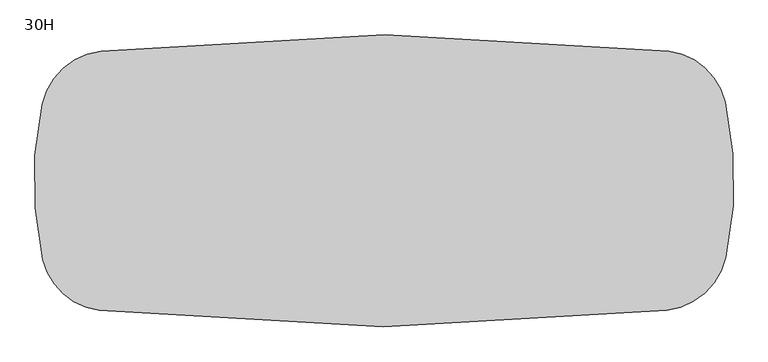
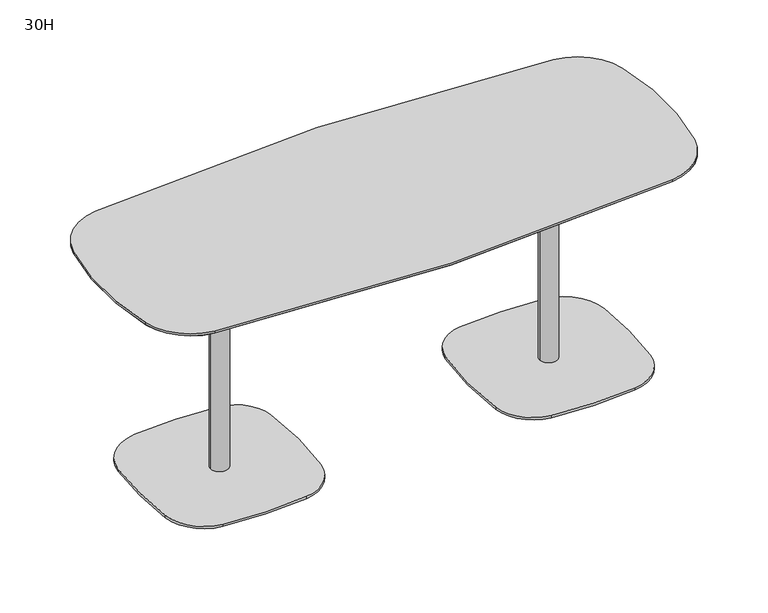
"""IFC4 building model written with IfcOpenShell, lengths in millimetres: furniture geometry, Steelcase Coalesse - Enea Lottus - Table - Rectangular : 30H."""

from ifc_helpers import new_model, si_unit, point, frame, frame_2d, origin, origin_with_axes, place, context, project, spatial, polyline, circle_curve, trimmed, segment, composite_curve, outline, extrude, source, transform, mapped, element, save
from ifc_brep_helpers import plane_surface, cylinder_surface, revolved_surface, advanced_brep


def furniture_30h_0e2ea376(model_context):
    return source(origin(), model_context, "Body", "SolidModel", [
        advanced_brep(
        [(533.6899315, 0.0079283, 725.7956207), (533.6899315, 29.1924887, 725.7956207), (533.6899315, -29.1766322, 725.7956207), (533.6899315, 176.2649386, 745.8538925), (533.6899315, -176.2490821, 745.8538925), (533.6899315, 176.2649386, 749.2282142), (533.6899315, -176.2490821, 749.2282142), (533.6899315, 0.0079283, 749.2282142)],
        [
            (0, 1),
            (1, 2, circle_curve(frame((533.6899315, 0.0079283, 725.7956207), z_axis=(0.0, 0.0, -1.0), x_axis=(0.0, 1.0, 0.0)), 29.1845605)),
            (2, 0),
            (2, 1, circle_curve(frame((533.6899315, 0.0079283, 725.7956207), z_axis=(0.0, 0.0, -1.0), x_axis=(0.0, 1.0, 0.0)), 29.1845605)),
            (1, 3),
            (3, 4, circle_curve(frame((533.6899315, 0.0079283, 745.8538925), z_axis=(0.0, 0.0, -1.0), x_axis=(0.0, 1.0, 0.0)), 176.2570104)),
            (4, 2),
            (4, 3, circle_curve(frame((533.6899315, 0.0079283, 745.8538925), z_axis=(0.0, 0.0, -1.0), x_axis=(0.0, 1.0, 0.0)), 176.2570104)),
            (3, 5),
            (5, 6, circle_curve(frame((533.6899315, 0.0079283, 749.2282142), z_axis=(0.0, 0.0, -1.0), x_axis=(0.0, 1.0, 0.0)), 176.2570104)),
            (6, 4),
            (6, 5, circle_curve(frame((533.6899315, 0.0079283, 749.2282142), z_axis=(0.0, 0.0, -1.0), x_axis=(0.0, 1.0, 0.0)), 176.2570104)),
            (5, 7),
            (7, 6),
        ],
        [
            plane_surface(frame((533.6899315, 0.0079283, 725.7956207), z_axis=(0.0, 0.0, -1.0), x_axis=(0.0, 1.0, 0.0))),
            revolved_surface(polyline([(533.6899315, 176.2649386, 745.8538925), (533.6899315, 29.1924887, 725.7956207)]), (533.6899315, 0.0079283, 745.2176504), (0.0, 0.0, -1.0)),
            cylinder_surface(frame((533.6899315, 0.0079283, 745.2176504), z_axis=(0.0, 0.0, -1.0), x_axis=(0.0, 1.0, 0.0)), 176.2570104),
            plane_surface(frame((533.6899315, 0.0079283, 749.2282142), z_axis=(0.0, 0.0, 1.0), x_axis=(0.0, 1.0, 0.0))),
        ],
        [
            (0, [[1, 2, 3]]),
            (0, [[-3, 4, -1]]),
            (1, [[-2, 5, 6, 7]]),
            (1, [[-4, -7, 8, -5]]),
            (2, [[-6, 9, 10, 11]]),
            (2, [[-8, -11, 12, -9]]),
            (3, [[-10, 13, 14]]),
            (3, [[-12, -14, -13]]),
        ],
    ),
        advanced_brep(
        [(-533.2930565, -29.5735072, 725.7956207), (-533.2930565, 28.7956137, 725.7956207), (-533.2930565, -0.3889467, 725.7956207), (-533.2930565, -176.6459571, 745.8538925), (-533.2930565, 175.8680636, 745.8538925), (-533.2930565, -176.6459571, 749.2282142), (-533.2930565, 175.8680636, 749.2282142), (-533.2930565, -0.3889467, 749.2282142)],
        [
            (0, 1, circle_curve(frame((-533.2930565, -0.3889467, 725.7956207), z_axis=(0.0, 0.0, -1.0), x_axis=(0.0, 1.0, 0.0)), 29.1845605)),
            (1, 2),
            (2, 0),
            (1, 0, circle_curve(frame((-533.2930565, -0.3889467, 725.7956207), z_axis=(0.0, 0.0, -1.0), x_axis=(0.0, 1.0, 0.0)), 29.1845605)),
            (3, 4, circle_curve(frame((-533.2930565, -0.3889467, 745.8538925), z_axis=(0.0, 0.0, -1.0), x_axis=(0.0, 1.0, 0.0)), 176.2570104)),
            (4, 1),
            (0, 3),
            (4, 3, circle_curve(frame((-533.2930565, -0.3889467, 745.8538925), z_axis=(0.0, 0.0, -1.0), x_axis=(0.0, 1.0, 0.0)), 176.2570104)),
            (5, 6, circle_curve(frame((-533.2930565, -0.3889467, 749.2282142), z_axis=(0.0, 0.0, -1.0), x_axis=(0.0, 1.0, 0.0)), 176.2570104)),
            (6, 4),
            (3, 5),
            (6, 5, circle_curve(frame((-533.2930565, -0.3889467, 749.2282142), z_axis=(0.0, 0.0, -1.0), x_axis=(0.0, 1.0, 0.0)), 176.2570104)),
            (7, 6),
            (5, 7),
        ],
        [
            plane_surface(frame((-533.2930565, -0.3889467, 725.7956207), z_axis=(0.0, 0.0, -1.0), x_axis=(0.0, 1.0, 0.0))),
            revolved_surface(polyline([(-533.2930565, 28.7956137, 725.7956207), (-533.2930565, 175.8680636, 745.8538925)]), (-533.2930565, -0.3889467, 745.2176504), (0.0, 0.0, 1.0)),
            cylinder_surface(frame((-533.2930565, -0.3889467, 745.2176504), z_axis=(0.0, 0.0, 1.0), x_axis=(0.0, 1.0, 0.0)), 176.2570104),
            plane_surface(frame((-533.2930565, -0.3889467, 749.2282142), z_axis=(0.0, 0.0, 1.0), x_axis=(0.0, 1.0, 0.0))),
        ],
        [
            (0, [[1, 2, 3]]),
            (0, [[4, -3, -2]]),
            (1, [[5, 6, -1, 7]]),
            (1, [[8, -7, -4, -6]]),
            (2, [[9, 10, -5, 11]]),
            (2, [[12, -11, -8, -10]]),
            (3, [[13, -9, 14]]),
            (3, [[-14, -12, -13]]),
        ],
    ),
        extrude(outline(composite_curve([segment(trimmed(circle_curve(frame_2d((714.0146629, 180.1091408)), 14.530327), [point((699.4843358, 180.1091408))], [point((728.5449899, 180.1091408))], False, "CARTESIAN"), True, "CONTINUOUS"), segment(trimmed(circle_curve(frame_2d((714.0146629, 180.1091408)), 14.530327), [point((728.5449899, 180.1091408))], [point((699.4843358, 180.1091408))], False, "CARTESIAN"), True, "CONTINUOUS")], self_intersect=False)), origin_with_axes(), (0.0, 0.0, 1.0), 12.0681503),
        extrude(outline(composite_curve([segment(trimmed(circle_curve(frame_2d((353.3678597, 180.1091408)), 14.530327), [point((338.8375326, 180.1091408))], [point((367.8981867, 180.1091408))], False, "CARTESIAN"), True, "CONTINUOUS"), segment(trimmed(circle_curve(frame_2d((353.3678597, 180.1091408)), 14.530327), [point((367.8981867, 180.1091408))], [point((338.8375326, 180.1091408))], False, "CARTESIAN"), True, "CONTINUOUS")], self_intersect=False)), origin_with_axes(), (0.0, 0.0, 1.0), 12.0681503),
        extrude(outline(composite_curve([segment(trimmed(circle_curve(frame_2d((714.0146629, -180.1091408)), 14.530327), [point((699.4843358, -180.1091408))], [point((728.5449899, -180.1091408))], False, "CARTESIAN"), True, "CONTINUOUS"), segment(trimmed(circle_curve(frame_2d((714.0146629, -180.1091408)), 14.530327), [point((728.5449899, -180.1091408))], [point((699.4843358, -180.1091408))], False, "CARTESIAN"), True, "CONTINUOUS")], self_intersect=False)), origin_with_axes(), (0.0, 0.0, 1.0), 12.0681503),
        extrude(outline(composite_curve([segment(trimmed(circle_curve(frame_2d((353.3678597, -180.1091408)), 14.530327), [point((338.8375326, -180.1091408))], [point((367.8981867, -180.1091408))], False, "CARTESIAN"), True, "CONTINUOUS"), segment(trimmed(circle_curve(frame_2d((353.3678597, -180.1091408)), 14.530327), [point((367.8981867, -180.1091408))], [point((338.8375326, -180.1091408))], False, "CARTESIAN"), True, "CONTINUOUS")], self_intersect=False)), origin_with_axes(), (0.0, 0.0, 1.0), 12.0681503),
        extrude(outline(composite_curve([segment(trimmed(circle_curve(frame_2d((653.6418748, -119.1450965)), 133.222342), [point((786.0221834, -134.099905))], [point((668.3067607, -251.5578358))], False, "CARTESIAN"), True, "CONTINUOUS"), segment(trimmed(circle_curve(frame_2d((533.6074129, 964.6745761)), 1223.6687436), [point((668.3067607, -251.5578358))], [point((397.528708, -251.4042783))], False, "CARTESIAN"), True, "CONTINUOUS"), segment(trimmed(circle_curve(frame_2d((411.982862, -122.2335093)), 129.97696), [point((397.528708, -251.4042783))], [point((282.9704132, -138.0385142))], False, "CARTESIAN"), True, "CONTINUOUS"), segment(trimmed(circle_curve(frame_2d((1412.2891802, 0.3116127)), 1137.7616777), [point((282.9704132, -138.0385142))], [point((283.9914799, 146.7559187))], False, "CARTESIAN"), True, "CONTINUOUS"), segment(trimmed(circle_curve(frame_2d((404.4486749, 131.1215074)), 121.4675703), [point((283.9914799, 146.7559187))], [point((391.3529548, 251.8810733))], False, "CARTESIAN"), True, "CONTINUOUS"), segment(trimmed(circle_curve(frame_2d((531.1125259, -1036.8838838)), 1296.3208909), [point((391.3529548, 251.8810733))], [point((663.5285015, 252.6562907))], False, "CARTESIAN"), True, "CONTINUOUS"), segment(trimmed(circle_curve(frame_2d((649.3276784, 114.3608031)), 139.022679), [point((663.5285015, 252.6562907))], [point((787.6552382, 128.2457396))], False, "CARTESIAN"), True, "CONTINUOUS"), segment(trimmed(circle_curve(frame_2d((-442.8831067, 4.7277163)), 1236.7220061), [point((787.6552382, 128.2457396))], [point((786.0221834, -134.099905))], False, "CARTESIAN"), True, "CONTINUOUS")], self_intersect=False)), frame((0.0, 0.0, 12.0681503), z_axis=(0.0, 0.0, 1.0), x_axis=(1.0, 0.0, 0.0)), (0.0, 0.0, 1.0), 7.874),
        extrude(outline(composite_curve([segment(trimmed(circle_curve(frame_2d((533.6909706, 0.2349542)), 29.1845605), [point((504.5064102, 0.2349542))], [point((562.8755311, 0.2349542))], False, "CARTESIAN"), True, "CONTINUOUS"), segment(trimmed(circle_curve(frame_2d((533.6909706, 0.2349542)), 29.1845605), [point((562.8755311, 0.2349542))], [point((504.5064102, 0.2349542))], False, "CARTESIAN"), True, "CONTINUOUS")], self_intersect=False)), frame((0.0, 0.0, 19.9421503), z_axis=(0.0, 0.0, 1.0), x_axis=(1.0, 0.0, 0.0)), (0.0, 0.0, 1.0), 705.8534704),
        advanced_brep(
        [(739.347506, -338.2744697, 754.447009), (892.4732941, -200.1677811, 754.447009), (891.2541739, 205.5853505, 754.447009), (743.9458752, 337.7402913, 754.447009), (-739.2545007, 338.4789717, 754.447009), (-892.4186272, 200.414007, 754.447009), (-891.1980236, -205.8312645, 754.447009), (-743.8530353, -337.9460632, 754.447009), (737.8865789, -325.6587774, 749.2282142), (-742.3865217, -325.3310191, 749.2282142), (-878.8170663, -203.0025018, 749.2282142), (-880.020895, 197.6596943, 749.2282142), (-737.7970634, 325.8628758, 749.2282142), (742.4758721, 325.1256533, 749.2282142), (878.872445, 202.7599674, 749.2282142), (880.0748107, -197.4168523, 749.2282142)],
        [
            (0, 1, circle_curve(frame((718.8945265, -161.6547777, 754.447009), z_axis=(0.0, 0.0, 1.0), x_axis=(0.11503363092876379, -0.9933615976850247, 0.0)), 177.8)),
            (1, 2, circle_curve(frame((-9.6863319, 0.0, 754.447009), z_axis=(0.0, 0.0, 1.0), x_axis=(0.9762585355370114, -0.2166085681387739, 0.0)), 924.0990917)),
            (2, 3, circle_curve(frame((724.1008339, 167.4426787, 754.447009), z_axis=(0.0, 0.0, 1.0), x_axis=(0.9749392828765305, 0.2224711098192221, 0.0)), 171.45)),
            (3, 4, circle_curve(frame((-0.8375458, -6053.5206925, 754.447009), z_axis=(0.0, 0.0, 1.0), x_axis=(0.11574827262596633, 0.9932785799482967, 0.0)), 6434.5100285)),
            (4, 5, circle_curve(frame((-718.8503777, 161.8536288, 754.447009), z_axis=(0.0, 0.0, 1.0), x_axis=(-0.11475884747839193, 0.9933933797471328, 0.0)), 177.8)),
            (5, 6, circle_curve(frame((9.6863319, 0.0, 754.447009), z_axis=(0.0, 0.0, 1.0), x_axis=(-0.9761993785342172, 0.2168750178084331, 0.0)), 924.0990917)),
            (6, 7, circle_curve(frame((-724.0551012, -167.6429678, 754.447009), z_axis=(0.0, 0.0, 1.0), x_axis=(-0.9748785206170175, -0.22273722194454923, 0.0)), 171.45)),
            (7, 0, circle_curve(frame((-0.8375458, 6053.5206925, 754.447009), z_axis=(0.0, 0.0, 1.0), x_axis=(-0.11547351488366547, -0.9933105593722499, 0.0)), 6434.5100285)),
            (8, 9, circle_curve(frame((-0.8375458, 6053.5206925, 749.2282142), z_axis=(0.0, 0.0, -1.0), x_axis=(-0.11547351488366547, -0.9933105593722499, 0.0)), 6421.8100285)),
            (9, 10, circle_curve(frame((-724.0551012, -167.6429678, 749.2282142), z_axis=(0.0, 0.0, -1.0), x_axis=(-0.9748785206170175, -0.22273722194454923, 0.0)), 158.75)),
            (10, 11, circle_curve(frame((9.6863319, 0.0, 749.2282142), z_axis=(0.0, 0.0, -1.0), x_axis=(-0.9761993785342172, 0.2168750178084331, 0.0)), 911.3990917)),
            (11, 12, circle_curve(frame((-718.8503777, 161.8536288, 749.2282142), z_axis=(0.0, 0.0, -1.0), x_axis=(-0.11475884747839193, 0.9933933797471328, 0.0)), 165.1)),
            (12, 13, circle_curve(frame((-0.8375458, -6053.5206925, 749.2282142), z_axis=(0.0, 0.0, -1.0), x_axis=(0.11574827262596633, 0.9932785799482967, 0.0)), 6421.8100285)),
            (13, 14, circle_curve(frame((724.1008339, 167.4426787, 749.2282142), z_axis=(0.0, 0.0, -1.0), x_axis=(0.9749392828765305, 0.2224711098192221, 0.0)), 158.75)),
            (14, 15, circle_curve(frame((-9.6863319, 0.0, 749.2282142), z_axis=(0.0, 0.0, -1.0), x_axis=(0.9762585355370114, -0.2166085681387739, 0.0)), 911.3990917)),
            (15, 8, circle_curve(frame((718.8945265, -161.6547777, 749.2282142), z_axis=(0.0, 0.0, -1.0), x_axis=(0.11503363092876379, -0.9933615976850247, 0.0)), 165.1)),
            (15, 1),
            (0, 8),
            (14, 2),
            (13, 3),
            (12, 4),
            (11, 5),
            (10, 6),
            (9, 7),
        ],
        [
            plane_surface(frame((0.0370828, -0.0001197, 754.447009), z_axis=(0.0, 0.0, 1.0), x_axis=(-0.9932785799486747, 0.11574827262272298, 0.0))),
            plane_surface(frame((0.03602, -0.00012, 749.2282142), z_axis=(0.0, 0.0, -1.0), x_axis=(-0.9932785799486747, 0.11574827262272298, 0.0))),
            revolved_surface(polyline([(880.0748107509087, -197.41685229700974, 749.2282142), (892.4732941, -200.1677811, 754.447009)]), (718.8945265, -161.6547777, 681.3838815), (0.0, 0.0, 1.0)),
            revolved_surface(polyline([(878.8724450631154, 202.75996741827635, 749.2282142), (891.2541739, 205.5853505, 754.447009)]), (-9.6863319, 0.0, 374.7081463), (0.0, 0.0, 1.0)),
            revolved_surface(polyline([(742.4758721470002, 325.12565338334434, 749.2282142), (743.9458752, 337.7402913, 754.447009)]), (724.1008339, 167.4426787, 683.9932789), (0.0, 0.0, 1.0)),
            revolved_surface(polyline([(-737.797063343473, 325.8628758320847, 749.2282142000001), (-739.2545007, 338.47897170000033, 754.4470090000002)]), (-0.8375458, -6053.5206925, -1889.6780007), (0.0, 0.0, 1.0)),
            revolved_surface(polyline([(-880.0208951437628, 197.65969428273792, 749.2282142), (-892.4186272, 200.414007, 754.447009)]), (-718.8503777, 161.8536288, 681.3838815), (0.0, 0.0, 1.0)),
            revolved_surface(polyline([(-878.8170664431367, -203.00250179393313, 749.2282142), (-891.1980236, -205.8312645, 754.447009)]), (9.6863319, 0.0, 374.7081463), (0.0, 0.0, 1.0)),
            revolved_surface(polyline([(-742.3865216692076, -325.3310191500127, 749.2282142), (-743.8530353, -337.9460632, 754.447009)]), (-724.0551012, -167.6429678, 683.9932789), (0.0, 0.0, 1.0)),
            revolved_surface(polyline([(737.8865788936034, -325.6587774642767, 749.2282142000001), (739.347506, -338.2744696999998, 754.4470090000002)]), (-0.8375458, 6053.5206925, -1889.6780007), (0.0, 0.0, 1.0)),
        ],
        [
            (0, [[1, 2, 3, 4, 5, 6, 7, 8]]),
            (1, [[9, 10, 11, 12, 13, 14, 15, 16]]),
            (2, [[-16, 17, -1, 18]]),
            (3, [[-15, 19, -2, -17]]),
            (4, [[-14, 20, -3, -19]]),
            (5, [[-13, 21, -4, -20]]),
            (6, [[-12, 22, -5, -21]]),
            (7, [[-11, 23, -6, -22]]),
            (8, [[-10, 24, -7, -23]]),
            (9, [[-9, -18, -8, -24]]),
        ],
    ),
        extrude(outline(composite_curve([segment(trimmed(circle_curve(frame_2d((9.6863319, 0.0)), 924.0990917), [point((-891.1980236, -205.8312645))], [point((-892.4186272, 200.414007))], False, "CARTESIAN"), True, "CONTINUOUS"), segment(trimmed(circle_curve(frame_2d((-718.8503777, 161.8536288)), 177.8), [point((-892.4186272, 200.414007))], [point((-739.2545007, 338.4789717))], False, "CARTESIAN"), True, "CONTINUOUS"), segment(trimmed(circle_curve(frame_2d((-0.8375458, -6053.5206925)), 6434.5100285), [point((-739.2545007, 338.4789717))], [point((743.9458752, 337.7402913))], False, "CARTESIAN"), True, "CONTINUOUS"), segment(trimmed(circle_curve(frame_2d((724.1008339, 167.4426787)), 171.45), [point((743.9458752, 337.7402913))], [point((891.2541739, 205.5853505))], False, "CARTESIAN"), True, "CONTINUOUS"), segment(trimmed(circle_curve(frame_2d((-9.6863319, 0.0)), 924.0990917), [point((891.2541739, 205.5853505))], [point((892.4732941, -200.1677811))], False, "CARTESIAN"), True, "CONTINUOUS"), segment(trimmed(circle_curve(frame_2d((718.8945265, -161.6547777)), 177.8), [point((892.4732941, -200.1677811))], [point((739.347506, -338.2744697))], False, "CARTESIAN"), True, "CONTINUOUS"), segment(trimmed(circle_curve(frame_2d((-0.8375458, 6053.5206925)), 6434.5100285), [point((739.347506, -338.2744697))], [point((-743.8530353, -337.9460632))], False, "CARTESIAN"), True, "CONTINUOUS"), segment(trimmed(circle_curve(frame_2d((-724.0551012, -167.6429678)), 171.45), [point((-743.8530353, -337.9460632))], [point((-891.1980236, -205.8312645))], False, "CARTESIAN"), True, "CONTINUOUS")], self_intersect=False)), frame((0.0, 0.0, 754.447009), z_axis=(0.0, 0.0, 1.0), x_axis=(1.0, 0.0, 0.0)), (0.0, 0.0, 1.0), 7.552991),
        extrude(outline(composite_curve([segment(trimmed(circle_curve(frame_2d((-714.0146629, 180.1091408)), 14.530327), [point((-699.4843358, 180.1091408))], [point((-728.5449899, 180.1091408))], False, "CARTESIAN"), True, "CONTINUOUS"), segment(trimmed(circle_curve(frame_2d((-714.0146629, 180.1091408)), 14.530327), [point((-728.5449899, 180.1091408))], [point((-699.4843358, 180.1091408))], False, "CARTESIAN"), True, "CONTINUOUS")], self_intersect=False)), origin_with_axes(), (0.0, 0.0, 1.0), 12.0681503),
        extrude(outline(composite_curve([segment(trimmed(circle_curve(frame_2d((-353.3678597, 180.1091408)), 14.530327), [point((-338.8375326, 180.1091408))], [point((-367.8981867, 180.1091408))], False, "CARTESIAN"), True, "CONTINUOUS"), segment(trimmed(circle_curve(frame_2d((-353.3678597, 180.1091408)), 14.530327), [point((-367.8981867, 180.1091408))], [point((-338.8375326, 180.1091408))], False, "CARTESIAN"), True, "CONTINUOUS")], self_intersect=False)), origin_with_axes(), (0.0, 0.0, 1.0), 12.0681503),
        extrude(outline(composite_curve([segment(trimmed(circle_curve(frame_2d((-714.0146629, -180.1091408)), 14.530327), [point((-699.4843358, -180.1091408))], [point((-728.5449899, -180.1091408))], False, "CARTESIAN"), True, "CONTINUOUS"), segment(trimmed(circle_curve(frame_2d((-714.0146629, -180.1091408)), 14.530327), [point((-728.5449899, -180.1091408))], [point((-699.4843358, -180.1091408))], False, "CARTESIAN"), True, "CONTINUOUS")], self_intersect=False)), origin_with_axes(), (0.0, 0.0, 1.0), 12.0681503),
        extrude(outline(composite_curve([segment(trimmed(circle_curve(frame_2d((-353.3678597, -180.1091408)), 14.530327), [point((-338.8375326, -180.1091408))], [point((-367.8981867, -180.1091408))], False, "CARTESIAN"), True, "CONTINUOUS"), segment(trimmed(circle_curve(frame_2d((-353.3678597, -180.1091408)), 14.530327), [point((-367.8981867, -180.1091408))], [point((-338.8375326, -180.1091408))], False, "CARTESIAN"), True, "CONTINUOUS")], self_intersect=False)), origin_with_axes(), (0.0, 0.0, 1.0), 12.0681503),
        extrude(outline(composite_curve([segment(trimmed(circle_curve(frame_2d((442.8831067, 4.7277163)), 1236.7220061), [point((-786.0221834, -134.099905))], [point((-787.6552382, 128.2457396))], False, "CARTESIAN"), True, "CONTINUOUS"), segment(trimmed(circle_curve(frame_2d((-649.3276784, 114.3608031)), 139.022679), [point((-787.6552382, 128.2457396))], [point((-663.5285015, 252.6562907))], False, "CARTESIAN"), True, "CONTINUOUS"), segment(trimmed(circle_curve(frame_2d((-531.1125259, -1036.8838838)), 1296.3208909), [point((-663.5285015, 252.6562907))], [point((-391.3529548, 251.8810733))], False, "CARTESIAN"), True, "CONTINUOUS"), segment(trimmed(circle_curve(frame_2d((-404.4486749, 131.1215074)), 121.4675703), [point((-391.3529548, 251.8810733))], [point((-283.9914799, 146.7559187))], False, "CARTESIAN"), True, "CONTINUOUS"), segment(trimmed(circle_curve(frame_2d((-1412.2891802, 0.3116127)), 1137.7616777), [point((-283.9914799, 146.7559187))], [point((-282.9704132, -138.0385142))], False, "CARTESIAN"), True, "CONTINUOUS"), segment(trimmed(circle_curve(frame_2d((-411.982862, -122.2335093)), 129.97696), [point((-282.9704132, -138.0385142))], [point((-397.528708, -251.4042783))], False, "CARTESIAN"), True, "CONTINUOUS"), segment(trimmed(circle_curve(frame_2d((-533.6074129, 964.6745761)), 1223.6687436), [point((-397.528708, -251.4042783))], [point((-668.3067607, -251.5578358))], False, "CARTESIAN"), True, "CONTINUOUS"), segment(trimmed(circle_curve(frame_2d((-653.6418748, -119.1450965)), 133.222342), [point((-668.3067607, -251.5578358))], [point((-786.0221834, -134.099905))], False, "CARTESIAN"), True, "CONTINUOUS")], self_intersect=False)), frame((0.0, 0.0, 12.0681503), z_axis=(0.0, 0.0, 1.0), x_axis=(1.0, 0.0, 0.0)), (0.0, 0.0, 1.0), 7.874),
        extrude(outline(composite_curve([segment(trimmed(circle_curve(frame_2d((-533.6909706, 0.2349542)), 29.1845605), [point((-504.5064102, 0.2349542))], [point((-562.8755311, 0.2349542))], False, "CARTESIAN"), True, "CONTINUOUS"), segment(trimmed(circle_curve(frame_2d((-533.6909706, 0.2349542)), 29.1845605), [point((-562.8755311, 0.2349542))], [point((-504.5064102, 0.2349542))], False, "CARTESIAN"), True, "CONTINUOUS")], self_intersect=False)), frame((0.0, 0.0, 19.9421503), z_axis=(0.0, 0.0, 1.0), x_axis=(1.0, 0.0, 0.0)), (0.0, 0.0, 1.0), 705.8534704),
    ])


if __name__ == "__main__":
    model = new_model("IFC4")
    model_context = context("Model", 3, world=origin())
    ifc_project = project(units=[si_unit("LENGTHUNIT", "METRE", prefix="MILLI")], contexts=[model_context])
    site = spatial("IfcSite", under=ifc_project)
    building = spatial("IfcBuilding", under=site)
    placement = place(None, origin())
    furniture_30h_shape = furniture_30h_0e2ea376(model_context)
    element("IfcFurniture", 1, ObjectType="Steelcase Coalesse - Enea Lottus - Table - Rectangular : 30H", at=placement, inside=building, context=model_context, shape_type="MappedRepresentation", body=[
        mapped(furniture_30h_shape, transform((0.0, 0.0, 0.0), x_axis=(1.0, 0.0, 0.0), y_axis=(0.0, 1.0, 0.0), z_axis=(0.0, 0.0, 1.0))),
    ])
    save(model, "model.ifc")
